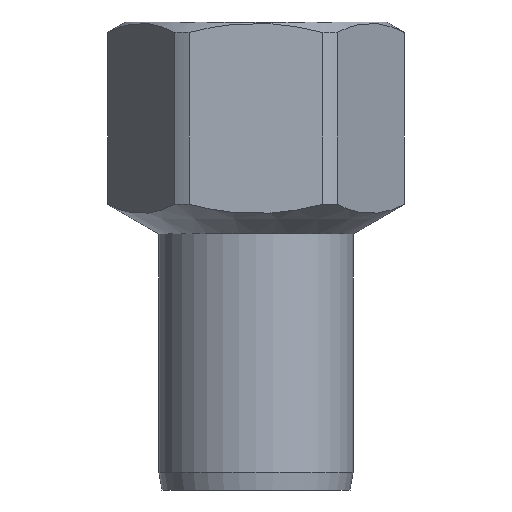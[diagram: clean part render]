
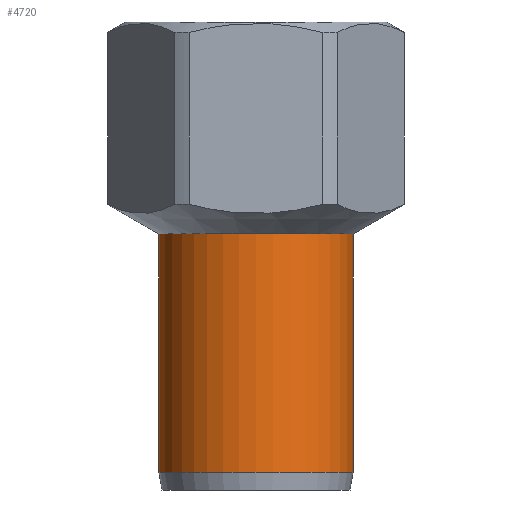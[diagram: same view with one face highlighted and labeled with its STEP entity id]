
A CAD part, left-side view. The second image highlights one B-rep face of the part: STEP entity #4720.
In plain terms, the highlighted cylindrical face has radius 11 mm (diameter 22 mm), a partial arc.
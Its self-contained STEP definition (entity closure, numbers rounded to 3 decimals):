
#2510=CARTESIAN_POINT('',(0.,11.,-24.));
#2520=VERTEX_POINT('',#2510);
#2550=CARTESIAN_POINT('',(0.,0.,-24.));
#2560=DIRECTION('',(0.,0.,-1.));
#2570=DIRECTION('',(0.,1.,0.));
#2580=AXIS2_PLACEMENT_3D('',#2550,#2560,#2570);
#2590=CIRCLE('',#2580,11.);
#2600=CARTESIAN_POINT('',(0.,-11.,-24.));
#2610=VERTEX_POINT('',#2600);
#4400=CARTESIAN_POINT('',(0.,0.,-25.5));
#4410=DIRECTION('',(0.,0.,1.));
#4420=DIRECTION('',(0.,1.,0.));
#4430=AXIS2_PLACEMENT_3D('',#4400,#4410,#4420);
#4440=CYLINDRICAL_SURFACE('',#4430,11.);
#4450=CARTESIAN_POINT('',(0.,-11.,-25.5));
#4460=DIRECTION('',(0.,0.,1.));
#4470=VECTOR('',#4460,1.);
#4480=LINE('',#4450,#4470);
#4490=CARTESIAN_POINT('',(0.,-11.,-51.));
#4500=VERTEX_POINT('',#4490);
#4510=EDGE_CURVE('',#4500,#2610,#4480,.T.);
#4520=ORIENTED_EDGE('',*,*,#4510,.T.);
#4530=CARTESIAN_POINT('',(0.,0.,-51.));
#4540=DIRECTION('',(0.,0.,1.));
#4550=DIRECTION('',(0.,1.,0.));
#4560=AXIS2_PLACEMENT_3D('',#4530,#4540,#4550);
#4570=CIRCLE('',#4560,11.);
#4580=CARTESIAN_POINT('',(0.,11.,-51.));
#4590=VERTEX_POINT('',#4580);
#4600=EDGE_CURVE('',#4590,#4500,#4570,.T.);
#4610=ORIENTED_EDGE('',*,*,#4600,.T.);
#4620=CARTESIAN_POINT('',(0.,11.,-25.5));
#4630=DIRECTION('',(0.,0.,1.));
#4640=VECTOR('',#4630,1.);
#4650=LINE('',#4620,#4640);
#4660=EDGE_CURVE('',#4590,#2520,#4650,.T.);
#4670=ORIENTED_EDGE('',*,*,#4660,.F.);
#4680=EDGE_CURVE('',#2610,#2520,#2590,.T.);
#4690=ORIENTED_EDGE('',*,*,#4680,.T.);
#4700=EDGE_LOOP('',(#4690,#4670,#4610,#4520));
#4710=FACE_OUTER_BOUND('',#4700,.T.);
#4720=ADVANCED_FACE('',(#4710),#4440,.T.);
